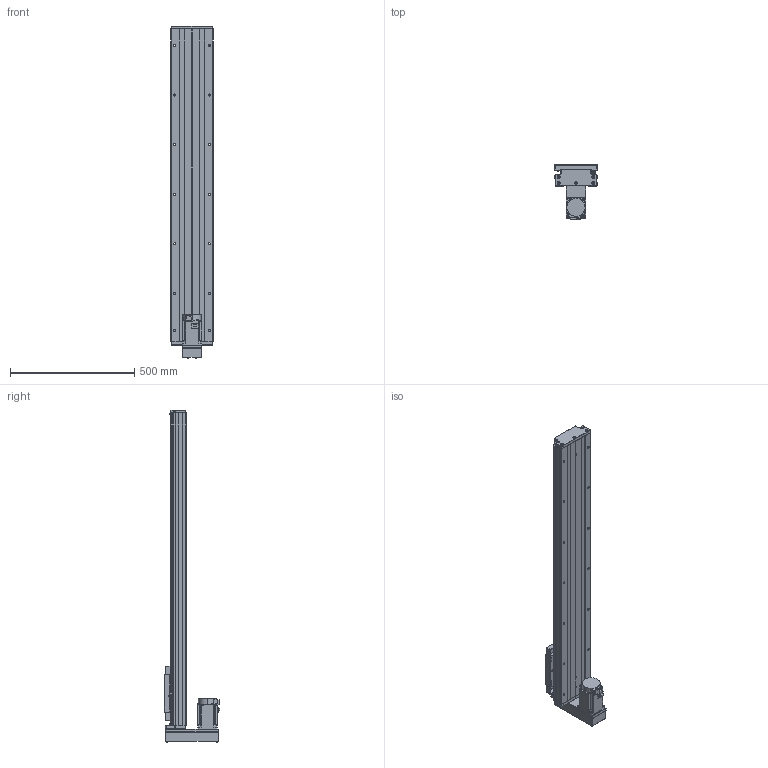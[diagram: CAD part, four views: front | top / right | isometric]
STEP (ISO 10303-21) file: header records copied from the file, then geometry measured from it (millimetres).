
FILE_DESCRIPTION (( 'STEP AP203' ), '1' );
FILE_NAME ('GTH17-1000-BM-M75-C4.step', '2023-06-30T12:37:41', ( '微软用户' ), ( '微软中国' ), 'SwSTEP 2.0', 'SolidWorks 2020', '' );
FILE_SCHEMA (( 'CONFIG_CONTROL_DESIGN' ));
Length unit declared in the file: millimetre
Products named in the file (19): GTH17-002_GTH17-002; GBT 70.1-M3℅5; GBT 70.2-M4¡Á45_M4¡Á35; GTH17-004; GBT77-2000 M3×3; GTH17-015-2_CTHA86-015-2; GTH17-005; GBT 70.1-M6¡Á20_M6¡Á20; GTH17-033; GB1155-6X6; GTH17-031; GTH17-1000-BM-M75-C4; CTHA60-017; GBT 70.2-M3¡Á5_M3¡Á6; EE_SX911P_R; す晦芛蹟隊 M3℅5; GTH17-001_1000; CTHA60-016; HG-KN73J-S100
Assembly tree (58 placements, depth 2):
  GTH17-1000-BM-M75-C4
    GTH17-001_1000
    GTH17-002_GTH17-002
    GTH17-004
    GTH17-005
    GB1155-6X6  x2
    CTHA60-017  x3
    EE_SX911P_R  x3
    CTHA60-016  x2
    GBT 70.1-M3℅5  x6
    GBT77-2000 M3×3  x6
    GBT 70.1-M6¡Á20_M6¡Á20  x10
    GTH17-031
    GBT 70.2-M3¡Á5_M3¡Á6  x8
    す晦芛蹟隊 M3℅5  x6
    HG-KN73J-S100
    GBT 70.2-M4¡Á45_M4¡Á35  x4
    GTH17-015-2_CTHA86-015-2
    GTH17-033
Bounding box: 171 x 222.3 x 1338.2 mm (x, y, z)
Volume: 10923430.6 mm3; surface area: 1461762.1 mm2
Topology: 61 solids, 61 shells, 2459 faces, 5869 edges, 3635 vertices
Faces by surface type: plane 1312, cylinder 674, cone 297, torus 124, sphere 32, bspline 20
Entity records: 45046 total; most frequent: CARTESIAN_POINT 10416, DIRECTION 6541, ORIENTED_EDGE 6450, EDGE_CURVE 3225, AXIS2_PLACEMENT_3D 2238, VECTOR 2065, LINE 2065, VERTEX_POINT 2047
